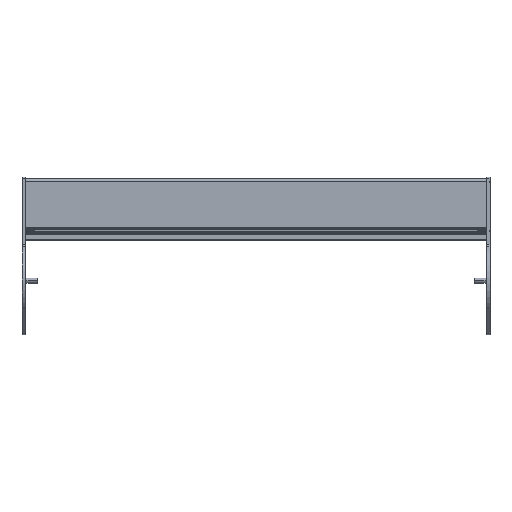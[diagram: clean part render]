
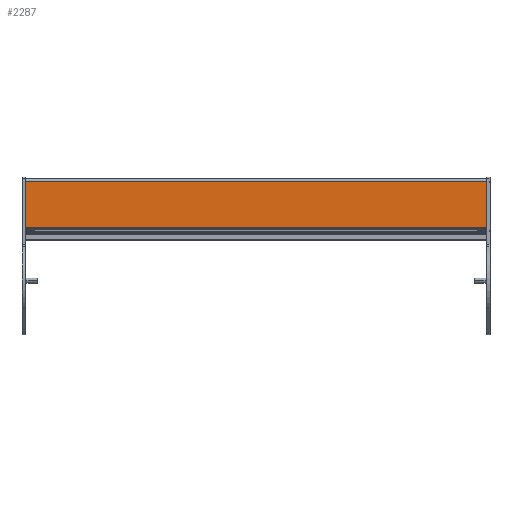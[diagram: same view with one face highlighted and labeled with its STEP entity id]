
A CAD part, top view. The second image highlights one B-rep face of the part: STEP entity #2287.
In plain terms, the highlighted planar face has unit normal (0, 0, 1) as drawn and (1, 0, 0) by its records, which use the part's own axes.
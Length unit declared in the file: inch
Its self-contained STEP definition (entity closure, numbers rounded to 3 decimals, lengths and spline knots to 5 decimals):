
#197=DIRECTION('',(0.,1.,0.));
#198=VECTOR('',#197,1.81445);
#199=CARTESIAN_POINT('',(0.683,-0.84545,-9.118));
#200=LINE('',#199,#198);
#303=DIRECTION('',(0.,1.,0.));
#304=VECTOR('',#303,1.81445);
#305=CARTESIAN_POINT('',(0.683,-0.84545,9.118));
#306=LINE('',#305,#304);
#652=DIRECTION('',(0.,0.,1.));
#653=VECTOR('',#652,18.236);
#654=CARTESIAN_POINT('',(0.683,0.969,-9.118));
#655=LINE('',#654,#653);
#665=DIRECTION('',(0.,0.,-1.));
#666=VECTOR('',#665,18.236);
#667=CARTESIAN_POINT('',(0.683,-0.84545,9.118));
#668=LINE('',#667,#666);
#1268=CARTESIAN_POINT('',(0.683,-0.84545,-9.118));
#1269=CARTESIAN_POINT('',(0.683,0.969,-9.118));
#1270=VERTEX_POINT('',#1268);
#1271=VERTEX_POINT('',#1269);
#1272=CARTESIAN_POINT('',(0.683,-0.84545,9.118));
#1273=CARTESIAN_POINT('',(0.683,0.969,9.118));
#1274=VERTEX_POINT('',#1272);
#1275=VERTEX_POINT('',#1273);
#2275=CARTESIAN_POINT('',(0.683,-0.86334,-9.118));
#2276=DIRECTION('',(1.,0.,0.));
#2277=DIRECTION('',(0.,1.,0.));
#2278=AXIS2_PLACEMENT_3D('',#2275,#2276,#2277);
#2279=PLANE('',#2278);
#2280=ORIENTED_EDGE('',*,*,#1633,.F.);
#2282=ORIENTED_EDGE('',*,*,#2281,.F.);
#2283=ORIENTED_EDGE('',*,*,#1736,.T.);
#2284=ORIENTED_EDGE('',*,*,#2268,.F.);
#2285=EDGE_LOOP('',(#2280,#2282,#2283,#2284));
#2286=FACE_OUTER_BOUND('',#2285,.F.);
#1633=EDGE_CURVE('',#1270,#1271,#200,.T.);
#1736=EDGE_CURVE('',#1274,#1275,#306,.T.);
#2268=EDGE_CURVE('',#1271,#1275,#655,.T.);
#2281=EDGE_CURVE('',#1274,#1270,#668,.T.);
#2287=ADVANCED_FACE('',(#2286),#2279,.T.);
